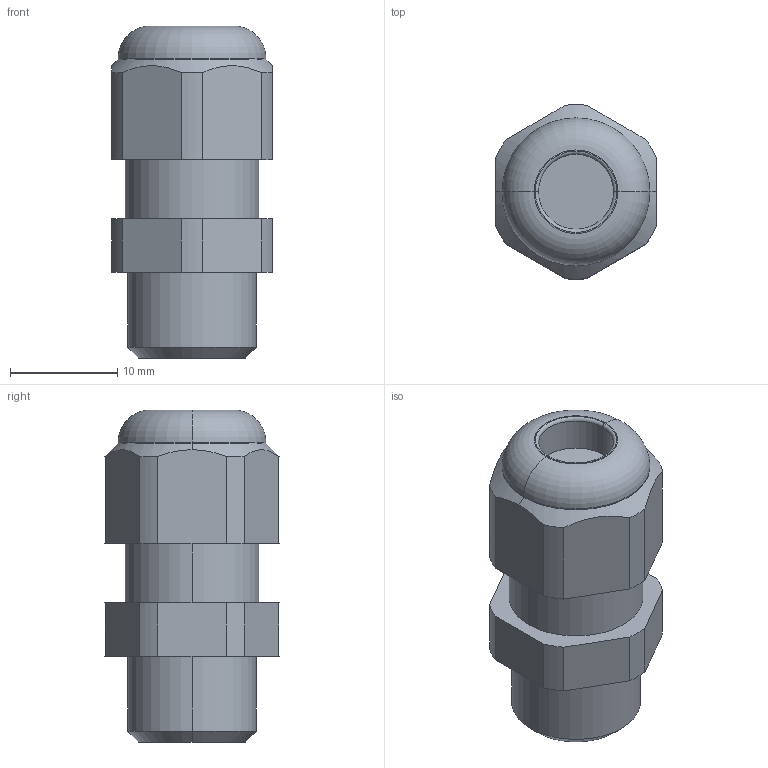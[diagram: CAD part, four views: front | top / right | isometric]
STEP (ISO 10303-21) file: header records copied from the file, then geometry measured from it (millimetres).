
FILE_DESCRIPTION (( 'STEP AP203' ), '1' );
FILE_NAME ('50.612 PA-STO.STEP', '2005-10-17T06:56:37', ( ' ' ), ( '' ), 'SwSTEP 2.0', 'SolidWorks 2005143', '' );
FILE_SCHEMA (( 'CONFIG_CONTROL_DESIGN' ));
Length unit declared in the file: millimetre
Products named in the file (1): 50.612 PA-STO
Bounding box: 15 x 16.29 x 31 mm (x, y, z)
Volume: 3700.7 mm3; surface area: 2325.9 mm2
Topology: 1 solids, 1 shells, 88 faces, 224 edges, 146 vertices
Faces by surface type: plane 56, cylinder 22, torus 6, cone 4
Entity records: 2775 total; most frequent: CARTESIAN_POINT 527, DIRECTION 452, ORIENTED_EDGE 448, EDGE_CURVE 224, LINE 158, VECTOR 158, AXIS2_PLACEMENT_3D 147, VERTEX_POINT 146
